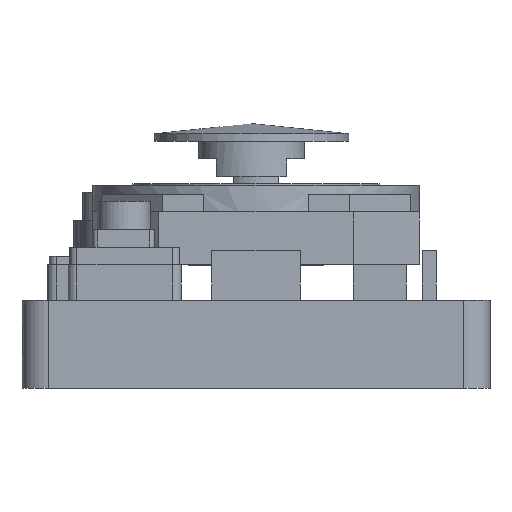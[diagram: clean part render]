
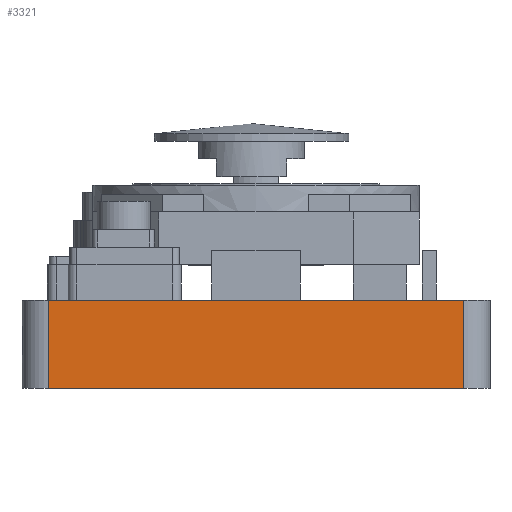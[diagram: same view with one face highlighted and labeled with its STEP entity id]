
A CAD part, front view. The second image highlights one B-rep face of the part: STEP entity #3321.
In plain terms, the highlighted planar face has unit normal (0, -1, 0).
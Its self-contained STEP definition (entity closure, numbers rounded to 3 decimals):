
#90 = PLANE('',#91);
#91 = AXIS2_PLACEMENT_3D('',#92,#93,#94);
#92 = CARTESIAN_POINT('',(-13.25,-13.25,5.));
#93 = DIRECTION('',(0.,0.,1.));
#94 = DIRECTION('',(1.,0.,0.));
#118 = CYLINDRICAL_SURFACE('',#119,1.5);
#119 = AXIS2_PLACEMENT_3D('',#120,#121,#122);
#120 = CARTESIAN_POINT('',(-11.75,-11.75,0.));
#121 = DIRECTION('',(0.,0.,1.));
#122 = DIRECTION('',(-1.,-0.,0.));
#247 = PLANE('',#248);
#248 = AXIS2_PLACEMENT_3D('',#249,#250,#251);
#249 = CARTESIAN_POINT('',(-13.25,-13.25,0.));
#250 = DIRECTION('',(0.,0.,1.));
#251 = DIRECTION('',(1.,0.,0.));
#396 = VERTEX_POINT('',#397);
#397 = CARTESIAN_POINT('',(-11.75,-13.25,5.));
#419 = EDGE_CURVE('',#396,#420,#422,.T.);
#420 = VERTEX_POINT('',#421);
#421 = CARTESIAN_POINT('',(11.75,-13.25,5.));
#422 = SURFACE_CURVE('',#423,(#427,#434),.PCURVE_S1.);
#423 = LINE('',#424,#425);
#424 = CARTESIAN_POINT('',(-13.25,-13.25,5.));
#425 = VECTOR('',#426,1.);
#426 = DIRECTION('',(1.,0.,0.));
#427 = PCURVE('',#90,#428);
#428 = DEFINITIONAL_REPRESENTATION('',(#429),#433);
#429 = LINE('',#430,#431);
#430 = CARTESIAN_POINT('',(0.,0.));
#431 = VECTOR('',#432,1.);
#432 = DIRECTION('',(1.,0.));
#433 = ( GEOMETRIC_REPRESENTATION_CONTEXT(2) 
PARAMETRIC_REPRESENTATION_CONTEXT() REPRESENTATION_CONTEXT('2D SPACE',''
  ) );
#434 = PCURVE('',#435,#440);
#435 = PLANE('',#436);
#436 = AXIS2_PLACEMENT_3D('',#437,#438,#439);
#437 = CARTESIAN_POINT('',(-13.25,-13.25,0.));
#438 = DIRECTION('',(0.,1.,0.));
#439 = DIRECTION('',(0.,0.,1.));
#440 = DEFINITIONAL_REPRESENTATION('',(#441),#445);
#441 = LINE('',#442,#443);
#442 = CARTESIAN_POINT('',(5.,0.));
#443 = VECTOR('',#444,1.);
#444 = DIRECTION('',(0.,1.));
#445 = ( GEOMETRIC_REPRESENTATION_CONTEXT(2) 
PARAMETRIC_REPRESENTATION_CONTEXT() REPRESENTATION_CONTEXT('2D SPACE',''
  ) );
#468 = CYLINDRICAL_SURFACE('',#469,1.5);
#469 = AXIS2_PLACEMENT_3D('',#470,#471,#472);
#470 = CARTESIAN_POINT('',(11.75,-11.75,0.));
#471 = DIRECTION('',(0.,0.,1.));
#472 = DIRECTION('',(1.,0.,-0.));
#2088 = VERTEX_POINT('',#2089);
#2089 = CARTESIAN_POINT('',(-11.75,-13.25,0.));
#2111 = EDGE_CURVE('',#2088,#2112,#2114,.T.);
#2112 = VERTEX_POINT('',#2113);
#2113 = CARTESIAN_POINT('',(11.75,-13.25,0.));
#2114 = SURFACE_CURVE('',#2115,(#2119,#2126),.PCURVE_S1.);
#2115 = LINE('',#2116,#2117);
#2116 = CARTESIAN_POINT('',(-13.25,-13.25,0.));
#2117 = VECTOR('',#2118,1.);
#2118 = DIRECTION('',(1.,0.,0.));
#2119 = PCURVE('',#247,#2120);
#2120 = DEFINITIONAL_REPRESENTATION('',(#2121),#2125);
#2121 = LINE('',#2122,#2123);
#2122 = CARTESIAN_POINT('',(0.,0.));
#2123 = VECTOR('',#2124,1.);
#2124 = DIRECTION('',(1.,0.));
#2125 = ( GEOMETRIC_REPRESENTATION_CONTEXT(2) 
PARAMETRIC_REPRESENTATION_CONTEXT() REPRESENTATION_CONTEXT('2D SPACE',''
  ) );
#2126 = PCURVE('',#435,#2127);
#2127 = DEFINITIONAL_REPRESENTATION('',(#2128),#2132);
#2128 = LINE('',#2129,#2130);
#2129 = CARTESIAN_POINT('',(0.,0.));
#2130 = VECTOR('',#2131,1.);
#2131 = DIRECTION('',(0.,1.));
#2132 = ( GEOMETRIC_REPRESENTATION_CONTEXT(2) 
PARAMETRIC_REPRESENTATION_CONTEXT() REPRESENTATION_CONTEXT('2D SPACE',''
  ) );
#2370 = EDGE_CURVE('',#2088,#396,#2371,.T.);
#2371 = SURFACE_CURVE('',#2372,(#2376,#2383),.PCURVE_S1.);
#2372 = LINE('',#2373,#2374);
#2373 = CARTESIAN_POINT('',(-11.75,-13.25,0.));
#2374 = VECTOR('',#2375,1.);
#2375 = DIRECTION('',(0.,0.,1.));
#2376 = PCURVE('',#118,#2377);
#2377 = DEFINITIONAL_REPRESENTATION('',(#2378),#2382);
#2378 = LINE('',#2379,#2380);
#2379 = CARTESIAN_POINT('',(1.571,0.));
#2380 = VECTOR('',#2381,1.);
#2381 = DIRECTION('',(0.,1.));
#2382 = ( GEOMETRIC_REPRESENTATION_CONTEXT(2) 
PARAMETRIC_REPRESENTATION_CONTEXT() REPRESENTATION_CONTEXT('2D SPACE',''
  ) );
#2383 = PCURVE('',#435,#2384);
#2384 = DEFINITIONAL_REPRESENTATION('',(#2385),#2389);
#2385 = LINE('',#2386,#2387);
#2386 = CARTESIAN_POINT('',(0.,1.5));
#2387 = VECTOR('',#2388,1.);
#2388 = DIRECTION('',(1.,0.));
#2389 = ( GEOMETRIC_REPRESENTATION_CONTEXT(2) 
PARAMETRIC_REPRESENTATION_CONTEXT() REPRESENTATION_CONTEXT('2D SPACE',''
  ) );
#3321 = ADVANCED_FACE('',(#3322),#435,.F.);
#3322 = FACE_BOUND('',#3323,.F.);
#3323 = EDGE_LOOP('',(#3324,#3325,#3326,#3327));
#3324 = ORIENTED_EDGE('',*,*,#2111,.F.);
#3325 = ORIENTED_EDGE('',*,*,#2370,.T.);
#3326 = ORIENTED_EDGE('',*,*,#419,.T.);
#3327 = ORIENTED_EDGE('',*,*,#3328,.F.);
#3328 = EDGE_CURVE('',#2112,#420,#3329,.T.);
#3329 = SURFACE_CURVE('',#3330,(#3334,#3341),.PCURVE_S1.);
#3330 = LINE('',#3331,#3332);
#3331 = CARTESIAN_POINT('',(11.75,-13.25,0.));
#3332 = VECTOR('',#3333,1.);
#3333 = DIRECTION('',(0.,0.,1.));
#3334 = PCURVE('',#435,#3335);
#3335 = DEFINITIONAL_REPRESENTATION('',(#3336),#3340);
#3336 = LINE('',#3337,#3338);
#3337 = CARTESIAN_POINT('',(0.,25.));
#3338 = VECTOR('',#3339,1.);
#3339 = DIRECTION('',(1.,0.));
#3340 = ( GEOMETRIC_REPRESENTATION_CONTEXT(2) 
PARAMETRIC_REPRESENTATION_CONTEXT() REPRESENTATION_CONTEXT('2D SPACE',''
  ) );
#3341 = PCURVE('',#468,#3342);
#3342 = DEFINITIONAL_REPRESENTATION('',(#3343),#3347);
#3343 = LINE('',#3344,#3345);
#3344 = CARTESIAN_POINT('',(-1.571,0.));
#3345 = VECTOR('',#3346,1.);
#3346 = DIRECTION('',(-0.,1.));
#3347 = ( GEOMETRIC_REPRESENTATION_CONTEXT(2) 
PARAMETRIC_REPRESENTATION_CONTEXT() REPRESENTATION_CONTEXT('2D SPACE',''
  ) );
